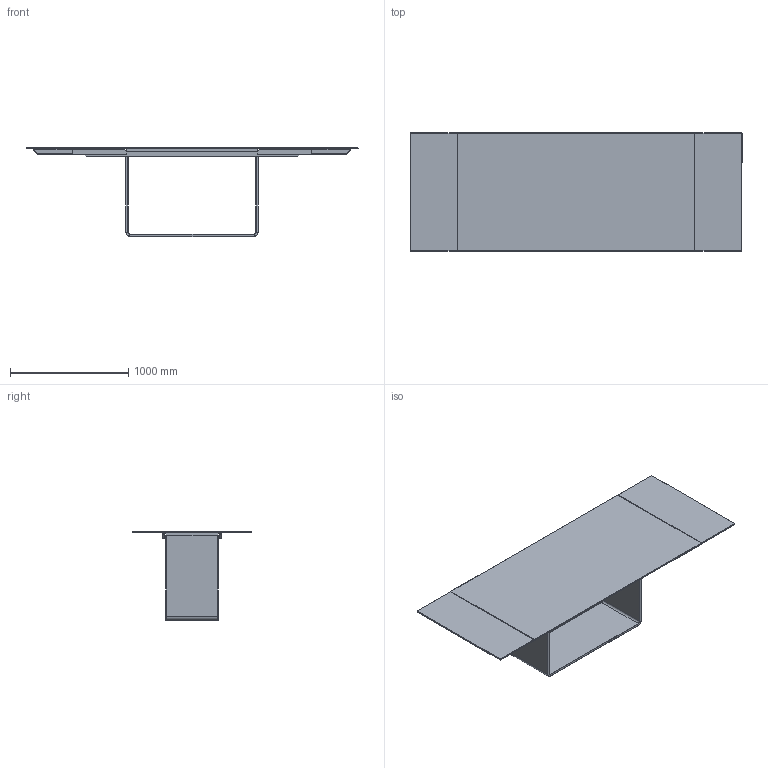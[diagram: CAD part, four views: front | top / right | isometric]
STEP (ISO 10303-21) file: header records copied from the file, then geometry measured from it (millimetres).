
FILE_DESCRIPTION((''),'2;1');
FILE_NAME('C:\AutodeskVault\AreaLavoro\Progetti\SoVeT Italia\1. Tavoli_Dining tables\Valencia\Valencia Extensible\Web file\Nome articolo Web\P1537.stp','2012-04-27T16:46:11',('Gianluca'),('So.Ve.T. s.r.l.'),'Autodesk Inventor 2011','Autodesk Inventor 2011','IL PROGETTO E'' DI ESCLUSIVA PROPRIETA'' DELLA SO.VE.T. srl. E'' VIETATA OGNI RIPRODUZIONE TOTALE O PARZIALE EQUALSIASI UTILIZZO NON AUTORIZZATO.');
FILE_SCHEMA(('AUTOMOTIVE_DESIGN { 1 0 10303 214 1 1 1 1 }'));
Length unit declared in the file: millimetre
Products named in the file (1): P1537 Contorno semplificato
Bounding box: 2809.14 x 1000.01 x 760.67 mm (x, y, z)
Volume: 74411107.8 mm3; surface area: 9594109.9 mm2
Topology: 7 solids, 7 shells, 470 faces, 1152 edges, 724 vertices
Faces by surface type: plane 331, cylinder 76, cone 40, bspline 23
Full cylindrical faces by diameter (mm): 48 x4
Entity records: 14981 total; most frequent: CARTESIAN_POINT 3378, ORIENTED_EDGE 2296, DIRECTION 2194, EDGE_CURVE 1148, VECTOR 914, LINE 914, VERTEX_POINT 724, AXIS2_PLACEMENT_3D 640
